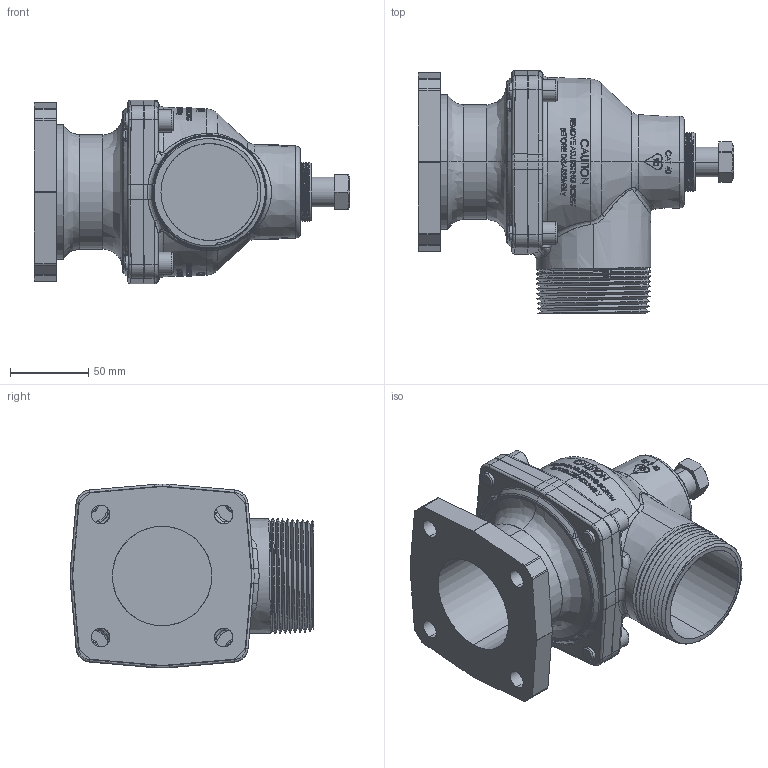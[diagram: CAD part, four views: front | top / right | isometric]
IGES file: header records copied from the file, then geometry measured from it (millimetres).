
Start section: SolidWorks IGES file using analytic representation for surfaces
Global section: file name: C:\plot\models\40-20.IGS; native system: SolidWorks 2013; preprocessor: SolidWorks 2013; author: tmott; date: 130712.101355; units: inch
Bounding box: 201.62 x 155.59 x 117.45 mm (x, y, z)
Surface area: 128816.5 mm2 (no closed solid volume)
Topology: 0 solids, 0 shells, 1713 faces, 19318 edges, 19318 vertices
Faces by surface type: bspline 1401, revolution 312
